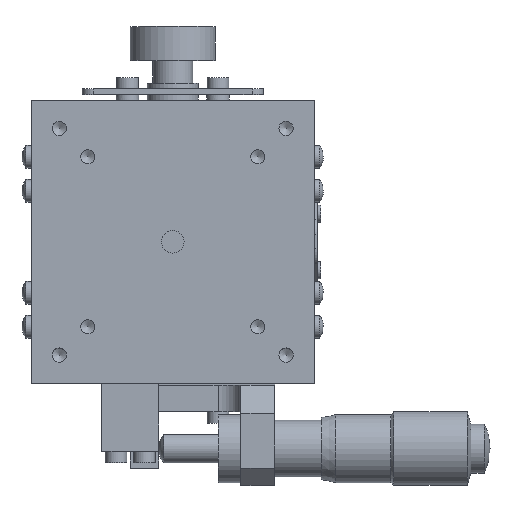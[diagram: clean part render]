
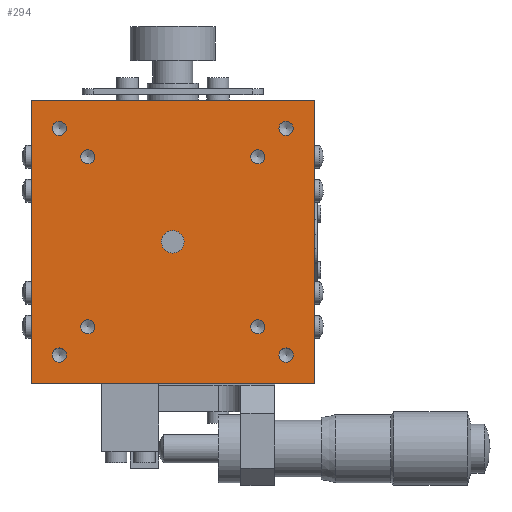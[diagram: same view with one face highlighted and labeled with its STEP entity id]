
A CAD part, top view. The second image highlights one B-rep face of the part: STEP entity #294.
In plain terms, the highlighted planar face has unit normal (0, 0, 1).
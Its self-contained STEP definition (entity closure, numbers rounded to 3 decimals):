
#294 = ADVANCED_FACE( '', ( #678, #679, #680, #681, #682, #683, #684, #685, #686, #687 ), #688, .T. );
#678 = FACE_BOUND( '', #1202, .T. );
#679 = FACE_BOUND( '', #1203, .T. );
#680 = FACE_BOUND( '', #1204, .T. );
#681 = FACE_BOUND( '', #1205, .T. );
#682 = FACE_BOUND( '', #1206, .T. );
#683 = FACE_BOUND( '', #1207, .T. );
#684 = FACE_BOUND( '', #1208, .T. );
#685 = FACE_BOUND( '', #1209, .T. );
#686 = FACE_OUTER_BOUND( '', #1210, .T. );
#687 = FACE_BOUND( '', #1211, .T. );
#688 = PLANE( '', #1212 );
#1202 = EDGE_LOOP( '', ( #2319 ) );
#1203 = EDGE_LOOP( '', ( #2320 ) );
#1204 = EDGE_LOOP( '', ( #2321 ) );
#1205 = EDGE_LOOP( '', ( #2322 ) );
#1206 = EDGE_LOOP( '', ( #2323 ) );
#1207 = EDGE_LOOP( '', ( #2324 ) );
#1208 = EDGE_LOOP( '', ( #2325 ) );
#1209 = EDGE_LOOP( '', ( #2326 ) );
#1210 = EDGE_LOOP( '', ( #2327, #2328, #2329, #2330 ) );
#1211 = EDGE_LOOP( '', ( #2331 ) );
#1212 = AXIS2_PLACEMENT_3D( '', #2332, #2333, #2334 );
#2319 = ORIENTED_EDGE( '', *, *, #3052, .T. );
#2320 = ORIENTED_EDGE( '', *, *, #3053, .T. );
#2321 = ORIENTED_EDGE( '', *, *, #3054, .T. );
#2322 = ORIENTED_EDGE( '', *, *, #3055, .T. );
#2323 = ORIENTED_EDGE( '', *, *, #3056, .T. );
#2324 = ORIENTED_EDGE( '', *, *, #3057, .T. );
#2325 = ORIENTED_EDGE( '', *, *, #3058, .T. );
#2326 = ORIENTED_EDGE( '', *, *, #3059, .T. );
#2327 = ORIENTED_EDGE( '', *, *, #3046, .F. );
#2328 = ORIENTED_EDGE( '', *, *, #3060, .F. );
#2329 = ORIENTED_EDGE( '', *, *, #3061, .F. );
#2330 = ORIENTED_EDGE( '', *, *, #3062, .F. );
#2331 = ORIENTED_EDGE( '', *, *, #3063, .T. );
#2332 = CARTESIAN_POINT( '', ( 0., 0., 18. ) );
#2333 = DIRECTION( '', ( 0., 0., 1. ) );
#2334 = DIRECTION( '', ( 1., 0., 0. ) );
#3046 = EDGE_CURVE( '', #3622, #3625, #3626, .T. );
#3052 = EDGE_CURVE( '', #3635, #3635, #3636, .T. );
#3053 = EDGE_CURVE( '', #3637, #3637, #3638, .T. );
#3054 = EDGE_CURVE( '', #3639, #3639, #3640, .T. );
#3055 = EDGE_CURVE( '', #3641, #3641, #3642, .T. );
#3056 = EDGE_CURVE( '', #3643, #3643, #3644, .T. );
#3057 = EDGE_CURVE( '', #3645, #3645, #3646, .T. );
#3058 = EDGE_CURVE( '', #3647, #3647, #3648, .T. );
#3059 = EDGE_CURVE( '', #3649, #3649, #3650, .T. );
#3060 = EDGE_CURVE( '', #3651, #3622, #3652, .T. );
#3061 = EDGE_CURVE( '', #3653, #3651, #3654, .T. );
#3062 = EDGE_CURVE( '', #3625, #3653, #3655, .T. );
#3063 = EDGE_CURVE( '', #3656, #3656, #3657, .T. );
#3622 = VERTEX_POINT( '', #4685 );
#3625 = VERTEX_POINT( '', #4689 );
#3626 = LINE( '', #4690, #4691 );
#3635 = VERTEX_POINT( '', #4704 );
#3636 = CIRCLE( '', #4705, 1.25 );
#3637 = VERTEX_POINT( '', #4706 );
#3638 = CIRCLE( '', #4707, 1.25 );
#3639 = VERTEX_POINT( '', #4708 );
#3640 = CIRCLE( '', #4709, 1.25 );
#3641 = VERTEX_POINT( '', #4710 );
#3642 = CIRCLE( '', #4711, 1.25 );
#3643 = VERTEX_POINT( '', #4712 );
#3644 = CIRCLE( '', #4713, 1.25 );
#3645 = VERTEX_POINT( '', #4714 );
#3646 = CIRCLE( '', #4715, 1.25 );
#3647 = VERTEX_POINT( '', #4716 );
#3648 = CIRCLE( '', #4717, 1.25 );
#3649 = VERTEX_POINT( '', #4718 );
#3650 = CIRCLE( '', #4719, 1.25 );
#3651 = VERTEX_POINT( '', #4720 );
#3652 = LINE( '', #4721, #4722 );
#3653 = VERTEX_POINT( '', #4723 );
#3654 = LINE( '', #4724, #4725 );
#3655 = LINE( '', #4726, #4727 );
#3656 = VERTEX_POINT( '', #4728 );
#3657 = CIRCLE( '', #4729, 2. );
#4685 = CARTESIAN_POINT( '', ( 25., -25., 18. ) );
#4689 = CARTESIAN_POINT( '', ( -25., -25., 18. ) );
#4690 = CARTESIAN_POINT( '', ( 0., -25., 18. ) );
#4691 = VECTOR( '', #5395, 1000. );
#4704 = CARTESIAN_POINT( '', ( 16.25, -15., 18. ) );
#4705 = AXIS2_PLACEMENT_3D( '', #5403, #5404, #5405 );
#4706 = CARTESIAN_POINT( '', ( 16.25, 15., 18. ) );
#4707 = AXIS2_PLACEMENT_3D( '', #5406, #5407, #5408 );
#4708 = CARTESIAN_POINT( '', ( -13.75, 15., 18. ) );
#4709 = AXIS2_PLACEMENT_3D( '', #5409, #5410, #5411 );
#4710 = CARTESIAN_POINT( '', ( -13.75, -15., 18. ) );
#4711 = AXIS2_PLACEMENT_3D( '', #5412, #5413, #5414 );
#4712 = CARTESIAN_POINT( '', ( 20., -21.25, 18. ) );
#4713 = AXIS2_PLACEMENT_3D( '', #5415, #5416, #5417 );
#4714 = CARTESIAN_POINT( '', ( 20., 18.75, 18. ) );
#4715 = AXIS2_PLACEMENT_3D( '', #5418, #5419, #5420 );
#4716 = CARTESIAN_POINT( '', ( -20., 18.75, 18. ) );
#4717 = AXIS2_PLACEMENT_3D( '', #5421, #5422, #5423 );
#4718 = CARTESIAN_POINT( '', ( -20., -21.25, 18. ) );
#4719 = AXIS2_PLACEMENT_3D( '', #5424, #5425, #5426 );
#4720 = CARTESIAN_POINT( '', ( 25., 25., 18. ) );
#4721 = CARTESIAN_POINT( '', ( 25., 0., 18. ) );
#4722 = VECTOR( '', #5427, 1000. );
#4723 = CARTESIAN_POINT( '', ( -25., 25., 18. ) );
#4724 = CARTESIAN_POINT( '', ( 0., 25., 18. ) );
#4725 = VECTOR( '', #5428, 1000. );
#4726 = CARTESIAN_POINT( '', ( -25., 0., 18. ) );
#4727 = VECTOR( '', #5429, 1000. );
#4728 = CARTESIAN_POINT( '', ( 2., 0., 18. ) );
#4729 = AXIS2_PLACEMENT_3D( '', #5430, #5431, #5432 );
#5395 = DIRECTION( '', ( -1., 0., 0. ) );
#5403 = CARTESIAN_POINT( '', ( 15., -15., 18. ) );
#5404 = DIRECTION( '', ( 0., 0., -1. ) );
#5405 = DIRECTION( '', ( 1., 0., 0. ) );
#5406 = CARTESIAN_POINT( '', ( 15., 15., 18. ) );
#5407 = DIRECTION( '', ( 0., 0., -1. ) );
#5408 = DIRECTION( '', ( 1., 0., 0. ) );
#5409 = CARTESIAN_POINT( '', ( -15., 15., 18. ) );
#5410 = DIRECTION( '', ( 0., 0., -1. ) );
#5411 = DIRECTION( '', ( 1., 0., 0. ) );
#5412 = CARTESIAN_POINT( '', ( -15., -15., 18. ) );
#5413 = DIRECTION( '', ( 0., 0., -1. ) );
#5414 = DIRECTION( '', ( 1., 0., 0. ) );
#5415 = CARTESIAN_POINT( '', ( 20., -20., 18. ) );
#5416 = DIRECTION( '', ( 0., 0., -1. ) );
#5417 = DIRECTION( '', ( 0., -1., 0. ) );
#5418 = CARTESIAN_POINT( '', ( 20., 20., 18. ) );
#5419 = DIRECTION( '', ( 0., 0., -1. ) );
#5420 = DIRECTION( '', ( 0., -1., 0. ) );
#5421 = CARTESIAN_POINT( '', ( -20., 20., 18. ) );
#5422 = DIRECTION( '', ( 0., 0., -1. ) );
#5423 = DIRECTION( '', ( 0., -1., 0. ) );
#5424 = CARTESIAN_POINT( '', ( -20., -20., 18. ) );
#5425 = DIRECTION( '', ( 0., 0., -1. ) );
#5426 = DIRECTION( '', ( 0., -1., 0. ) );
#5427 = DIRECTION( '', ( 0., -1., 0. ) );
#5428 = DIRECTION( '', ( 1., 0., 0. ) );
#5429 = DIRECTION( '', ( 0., 1., 0. ) );
#5430 = CARTESIAN_POINT( '', ( 0., 0., 18. ) );
#5431 = DIRECTION( '', ( 0., 0., -1. ) );
#5432 = DIRECTION( '', ( 1., 0., 0. ) );
